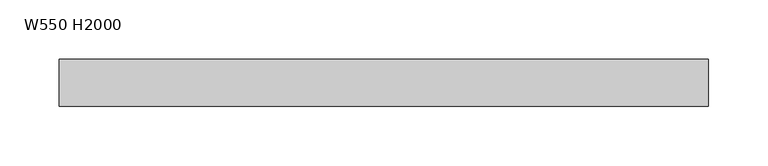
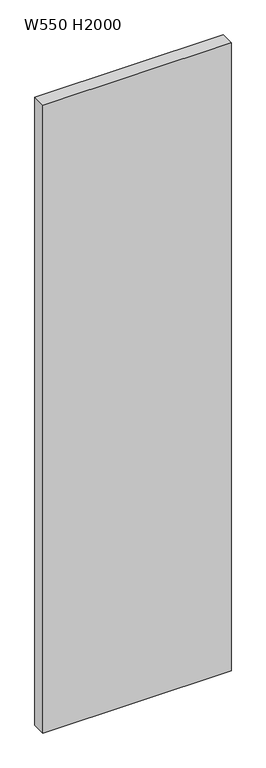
"""IFC4 building model written with IfcOpenShell, lengths in millimetres: proxy geometry, r トイレブース扉 : W550 H2000."""

from ifc_helpers import new_model, si_unit, frame, origin, place, context, project, spatial, polyline, outline, extrude, source, transform, mapped, element, save


def w550_h2000_5054dc5e(model_context):
    return source(origin(), model_context, "Body", "SweptSolid", [
        extrude(outline(polyline([(400.0, -20.0), (-150.0, -20.0), (-150.0, 20.0), (400.0, 20.0), (400.0, -20.0)])), frame((0.0, 0.0, 60.0), z_axis=(0.0, 0.0, 1.0), x_axis=(1.0, 0.0, 0.0)), (0.0, 0.0, 1.0), 1940.0),
    ])


if __name__ == "__main__":
    model = new_model("IFC4")
    model_context = context("Model", 3, world=origin())
    ifc_project = project(units=[si_unit("LENGTHUNIT", "METRE", prefix="MILLI")], contexts=[model_context])
    site = spatial("IfcSite", under=ifc_project)
    building = spatial("IfcBuilding", under=site)
    placement = place(None, origin())
    w550_h2000_shape = w550_h2000_5054dc5e(model_context)
    element("IfcBuildingElementProxy", 1, Name="r トイレブース扉 : W550 H2000", ObjectType="r トイレブース扉 : W550 H2000", at=placement, inside=building, context=model_context, shape_type="MappedRepresentation", body=[
        mapped(w550_h2000_shape, transform((0.0, 0.0, 0.0), x_axis=(1.0, 0.0, 0.0), y_axis=(0.0, 1.0, 0.0), z_axis=(0.0, 0.0, 1.0))),
    ])
    save(model, "model.ifc")
